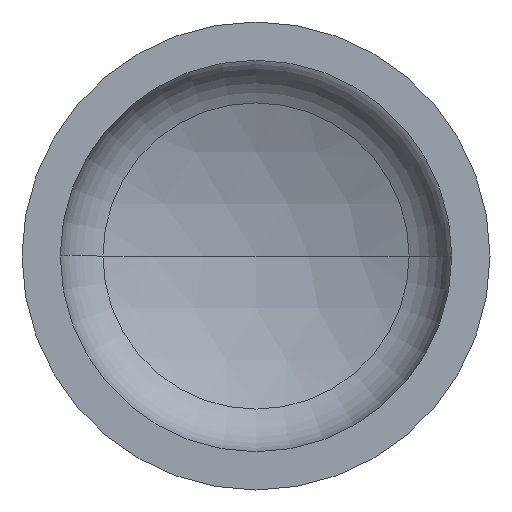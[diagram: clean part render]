
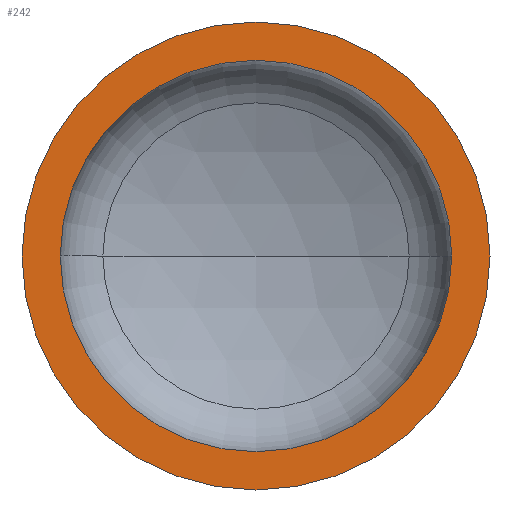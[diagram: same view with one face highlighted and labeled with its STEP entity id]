
A CAD part, front view. The second image highlights one B-rep face of the part: STEP entity #242.
In plain terms, the highlighted planar face has unit normal (0, -1, 0).
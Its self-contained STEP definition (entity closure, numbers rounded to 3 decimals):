
#4 = ORIENTED_EDGE ( 'NONE', *, *, #145, .F. ) ;
#13 = VERTEX_POINT ( 'NONE', #362 ) ;
#25 = ORIENTED_EDGE ( 'NONE', *, *, #144, .T. ) ;
#44 = DIRECTION ( 'NONE',  ( 0., -1., 0. ) ) ;
#46 = CARTESIAN_POINT ( 'NONE',  ( 0., 0., 0. ) ) ;
#53 = DIRECTION ( 'NONE',  ( 1., 0., 0. ) ) ;
#66 = AXIS2_PLACEMENT_3D ( 'NONE', #46, #44, #53 ) ;
#78 = AXIS2_PLACEMENT_3D ( 'NONE', #168, #227, #159 ) ;
#96 = AXIS2_PLACEMENT_3D ( 'NONE', #170, #171, #284 ) ;
#100 = AXIS2_PLACEMENT_3D ( 'NONE', #296, #273, #269 ) ;
#110 = EDGE_LOOP ( 'NONE', ( #4, #175 ) ) ;
#113 = CARTESIAN_POINT ( 'NONE',  ( 0., 0., 0. ) ) ;
#115 = DIRECTION ( 'NONE',  ( 0., -1., 0. ) ) ;
#116 = CIRCLE ( 'NONE', #96, 502. ) ;
#135 = AXIS2_PLACEMENT_3D ( 'NONE', #113, #115, #407 ) ;
#144 = EDGE_CURVE ( 'NONE', #396, #164, #336, .T. ) ;
#145 = EDGE_CURVE ( 'NONE', #13, #223, #116, .T. ) ;
#159 = DIRECTION ( 'NONE',  ( -1., 0., 0. ) ) ;
#164 = VERTEX_POINT ( 'NONE', #280 ) ;
#167 = CIRCLE ( 'NONE', #66, 600. ) ;
#168 = CARTESIAN_POINT ( 'NONE',  ( -600., 0., 0. ) ) ;
#170 = CARTESIAN_POINT ( 'NONE',  ( 0., 0., 0. ) ) ;
#171 = DIRECTION ( 'NONE',  ( 0., -1., 0. ) ) ;
#175 = ORIENTED_EDGE ( 'NONE', *, *, #402, .F. ) ;
#176 = CARTESIAN_POINT ( 'NONE',  ( -600., 0., 0. ) ) ;
#178 = FACE_OUTER_BOUND ( 'NONE', #236, .T. ) ;
#197 = CARTESIAN_POINT ( 'NONE',  ( -502., 0., 0. ) ) ;
#223 = VERTEX_POINT ( 'NONE', #197 ) ;
#227 = DIRECTION ( 'NONE',  ( 0., 1., 0. ) ) ;
#236 = EDGE_LOOP ( 'NONE', ( #241, #25 ) ) ;
#241 = ORIENTED_EDGE ( 'NONE', *, *, #329, .T. ) ;
#242 = ADVANCED_FACE ( 'NONE', ( #246, #178 ), #307, .F. ) ;
#246 = FACE_BOUND ( 'NONE', #110, .T. ) ;
#269 = DIRECTION ( 'NONE',  ( 1., 0., 0. ) ) ;
#273 = DIRECTION ( 'NONE',  ( 0., -1., 0. ) ) ;
#280 = CARTESIAN_POINT ( 'NONE',  ( 600., 0., 0. ) ) ;
#284 = DIRECTION ( 'NONE',  ( 1., 0., 0. ) ) ;
#296 = CARTESIAN_POINT ( 'NONE',  ( 0., 0., 0. ) ) ;
#307 = PLANE ( 'NONE',  #78 ) ;
#329 = EDGE_CURVE ( 'NONE', #164, #396, #167, .T. ) ;
#336 = CIRCLE ( 'NONE', #100, 600. ) ;
#338 = CIRCLE ( 'NONE', #135, 502. ) ;
#362 = CARTESIAN_POINT ( 'NONE',  ( 502., 0., 0. ) ) ;
#396 = VERTEX_POINT ( 'NONE', #176 ) ;
#402 = EDGE_CURVE ( 'NONE', #223, #13, #338, .T. ) ;
#407 = DIRECTION ( 'NONE',  ( 1., 0., 0. ) ) ;
